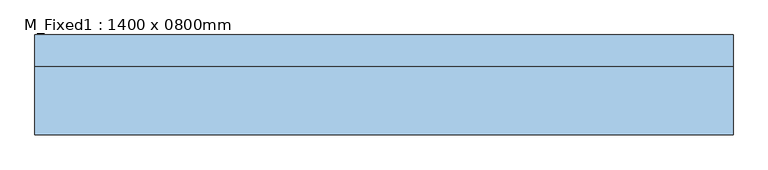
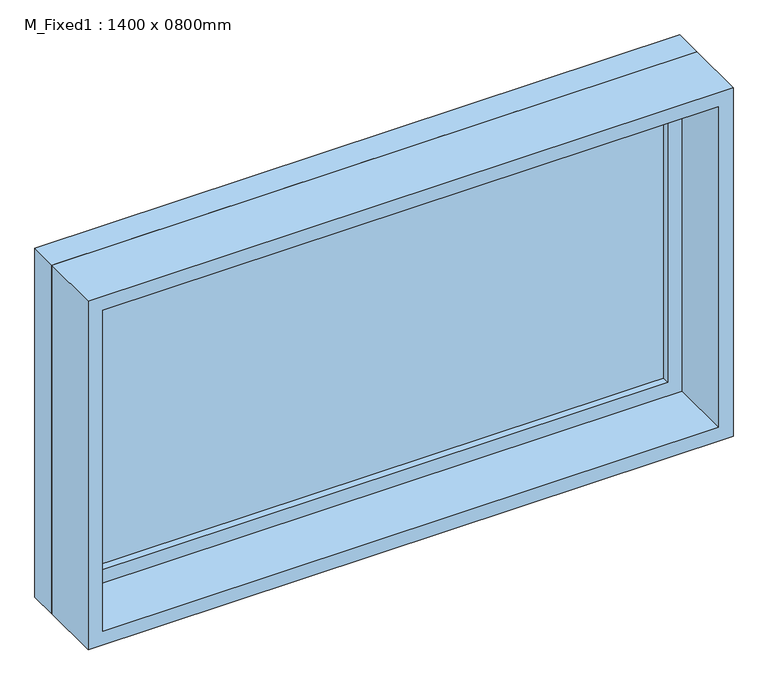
"""IFC4 building model written with IfcOpenShell, lengths in millimetres: window geometry, M_Fixed1 : 1400 x 0800mm."""

from ifc_helpers import new_model, si_unit, frame, origin, place, context, project, spatial, polyline, outline, extrude, source, transform, mapped, element, save


def m_fixed1_1400_x_0800mm_5a787fd8(model_context):
    return source(origin(), model_context, "Body", "SweptSolid", [
        extrude(outline(polyline([(-637.0, 78.0), (637.0, 78.0), (637.0, 66.0), (-637.0, 66.0), (-637.0, 78.0)])), frame((0.0, 0.0, 978.0), z_axis=(0.0, 0.0, 1.0), x_axis=(1.0, 0.0, 0.0)), (0.0, 0.0, 1.0), 674.0),
        extrude(outline(polyline([(1696.0, -681.0), (934.0, -681.0), (934.0, 681.0), (1696.0, 681.0), (1696.0, -681.0)]), holes=[polyline([(1652.0, -637.0), (1652.0, 637.0), (978.0, 637.0), (978.0, -637.0), (1652.0, -637.0)])]), frame((0.0, 50.0, 0.0), z_axis=(0.0, 1.0, 0.0), x_axis=(0.0, 0.0, 1.0)), (0.0, 0.0, 1.0), 44.0),
        extrude(outline(polyline([(1715.0, -700.0), (915.0, -700.0), (915.0, 700.0), (1715.0, 700.0), (1715.0, -700.0)]), holes=[polyline([(1696.0, -681.0), (1696.0, 681.0), (934.0, 681.0), (934.0, -681.0), (1696.0, -681.0)])]), frame((0.0, 50.0, 0.0), z_axis=(0.0, 1.0, 0.0), x_axis=(0.0, 0.0, 1.0)), (0.0, 0.0, 1.0), 63.0),
        extrude(outline(polyline([(1715.0, -700.0), (915.0, -700.0), (915.0, 700.0), (1715.0, 700.0), (1715.0, -700.0)]), holes=[polyline([(1683.0, -668.0), (1683.0, 668.0), (947.0, 668.0), (947.0, -668.0), (1683.0, -668.0)])]), frame((0.0, -87.0, 0.0), z_axis=(0.0, 1.0, 0.0), x_axis=(0.0, 0.0, 1.0)), (0.0, 0.0, 1.0), 137.0),
    ])


if __name__ == "__main__":
    model = new_model("IFC4")
    model_context = context("Model", 3, world=origin())
    ifc_project = project(units=[si_unit("LENGTHUNIT", "METRE", prefix="MILLI")], contexts=[model_context])
    site = spatial("IfcSite", under=ifc_project)
    building = spatial("IfcBuilding", under=site)
    placement = place(None, origin())
    m_fixed1_1400_x_0800mm_shape = m_fixed1_1400_x_0800mm_5a787fd8(model_context)
    element("IfcWindow", 1, ObjectType="M_Fixed1 : 1400 x 0800mm", at=placement, inside=building, context=model_context, shape_type="MappedRepresentation", body=[
        mapped(m_fixed1_1400_x_0800mm_shape, transform((0.0, 0.0, 0.0), x_axis=(1.0, 0.0, 0.0), y_axis=(0.0, 1.0, 0.0), z_axis=(0.0, 0.0, 1.0))),
    ])
    save(model, "model.ifc")
